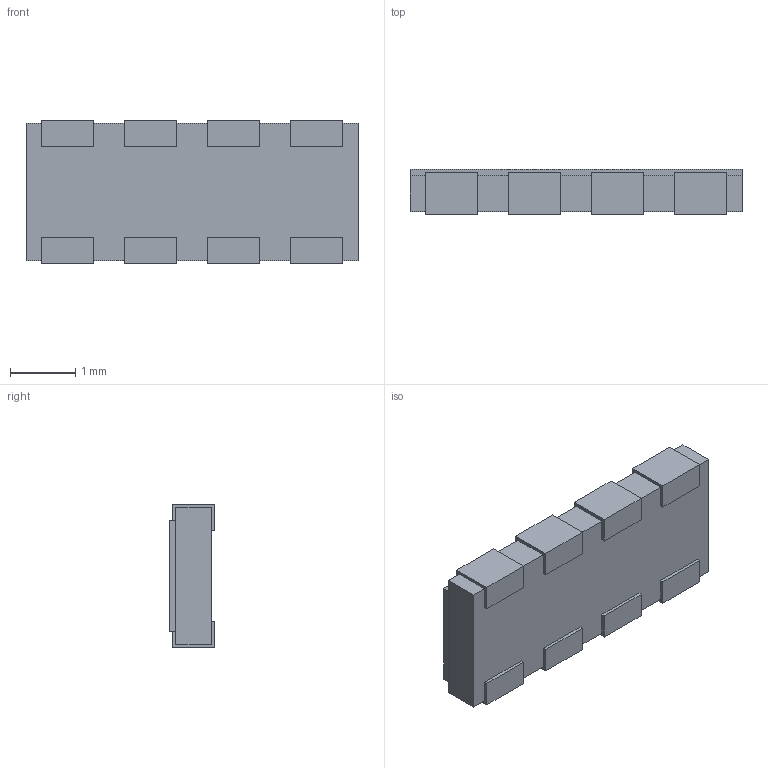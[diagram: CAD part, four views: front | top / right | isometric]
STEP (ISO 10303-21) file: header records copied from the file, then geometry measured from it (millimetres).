
FILE_DESCRIPTION (( 'STEP AP214' ), '1' );
FILE_NAME ( 'RESCAV127P508X210X70-8.STEP', '2014-04-11T12:31:18', ( '' ), ( '' ), 'FPX Expert 2013', 'PCB Libraries', '' );
FILE_SCHEMA (( 'AUTOMOTIVE_DESIGN' ));
Length unit declared in the file: millimetre
Products named in the file (1): RESCAV127P508X210X70-8
Bounding box: 5.08 x 0.7 x 2.2 mm (x, y, z)
Volume: 7.1 mm3; surface area: 64.8 mm2
Topology: 10 solids, 10 shells, 92 faces, 216 edges, 144 vertices
Faces by surface type: plane 92
Entity records: 2953 total; most frequent: CARTESIAN_POINT 453, ORIENTED_EDGE 432, DIRECTION 402, VECTOR 216, LINE 216, EDGE_CURVE 216, VERTEX_POINT 144, STYLED_ITEM 103
